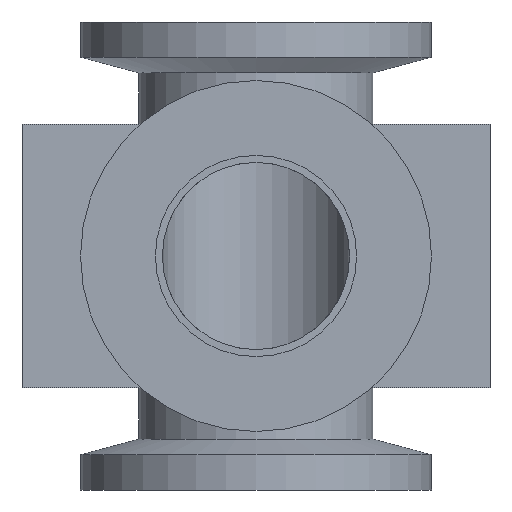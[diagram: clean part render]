
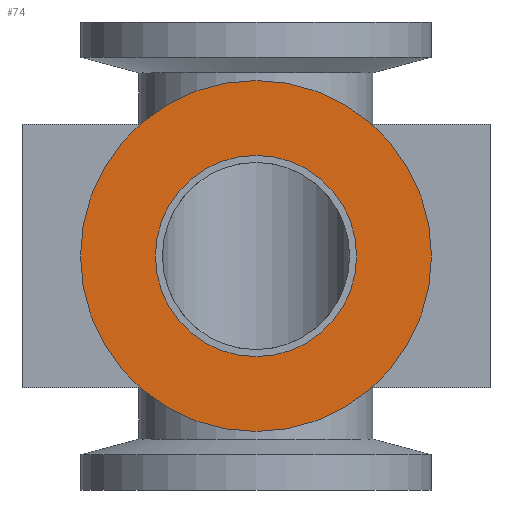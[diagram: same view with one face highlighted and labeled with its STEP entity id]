
A CAD part, left-side view. The second image highlights one B-rep face of the part: STEP entity #74.
In plain terms, the highlighted planar face has unit normal (-1, 0, 0).
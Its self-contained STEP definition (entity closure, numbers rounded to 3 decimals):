
#74 = ADVANCED_FACE( '', ( #167, #168 ), #169, .T. );
#167 = FACE_BOUND( '', #276, .T. );
#168 = FACE_OUTER_BOUND( '', #277, .T. );
#169 = PLANE( '', #278 );
#276 = EDGE_LOOP( '', ( #414 ) );
#277 = EDGE_LOOP( '', ( #415 ) );
#278 = AXIS2_PLACEMENT_3D( '', #416, #417, #418 );
#414 = ORIENTED_EDGE( '', *, *, #530, .T. );
#415 = ORIENTED_EDGE( '', *, *, #542, .F. );
#416 = CARTESIAN_POINT( '', ( -40., -15., 0. ) );
#417 = DIRECTION( '', ( -1., 0., 0. ) );
#418 = DIRECTION( '', ( 0., 0., 1. ) );
#530 = EDGE_CURVE( '', #610, #610, #611, .T. );
#542 = EDGE_CURVE( '', #626, #626, #627, .T. );
#610 = VERTEX_POINT( '', #710 );
#611 = CIRCLE( '', #711, 8.6 );
#626 = VERTEX_POINT( '', #728 );
#627 = CIRCLE( '', #729, 15. );
#710 = CARTESIAN_POINT( '', ( -40., 0., -8.6 ) );
#711 = AXIS2_PLACEMENT_3D( '', #802, #803, #804 );
#728 = CARTESIAN_POINT( '', ( -40., 0., -15. ) );
#729 = AXIS2_PLACEMENT_3D( '', #816, #817, #818 );
#802 = CARTESIAN_POINT( '', ( -40., 0., 0. ) );
#803 = DIRECTION( '', ( 1., 0., 0. ) );
#804 = DIRECTION( '', ( 0., 0., -1. ) );
#816 = CARTESIAN_POINT( '', ( -40., 0., 0. ) );
#817 = DIRECTION( '', ( 1., 0., 0. ) );
#818 = DIRECTION( '', ( 0., 0., -1. ) );
